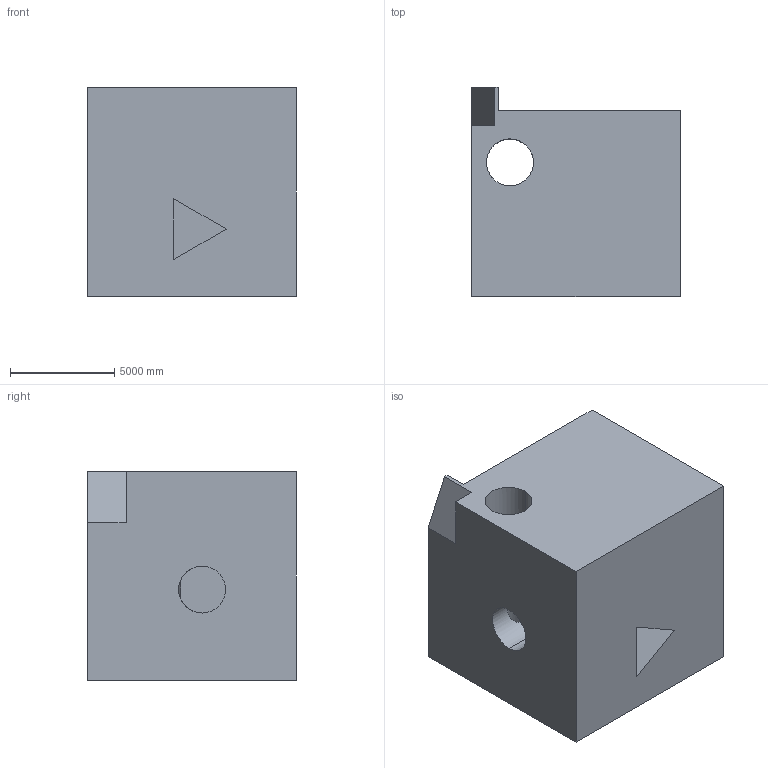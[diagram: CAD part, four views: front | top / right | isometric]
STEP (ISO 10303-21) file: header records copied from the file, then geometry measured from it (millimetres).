
FILE_DESCRIPTION (( 'STEP AP203' ), '1' );
FILE_NAME ('1406.STEP', '2022-08-18T14:17:20', ( 'user' ), ( '' ), 'SwSTEP 2.0', 'SolidWorks 2021', '' );
FILE_SCHEMA (( 'CONFIG_CONTROL_DESIGN' ));
Length unit declared in the file: centimetre
Products named in the file (1): 1406
Bounding box: 10000 x 10000 x 10000 mm (x, y, z)
Volume: 763716871265.9 mm3; surface area: 689773247.5 mm2
Topology: 1 solids, 1 shells, 19 faces, 51 edges, 34 vertices
Faces by surface type: plane 15, cylinder 4
Entity records: 905 total; most frequent: CARTESIAN_POINT 335, ORIENTED_EDGE 102, DIRECTION 99, EDGE_CURVE 51, LINE 39, VECTOR 39, VERTEX_POINT 34, AXIS2_PLACEMENT_3D 30
